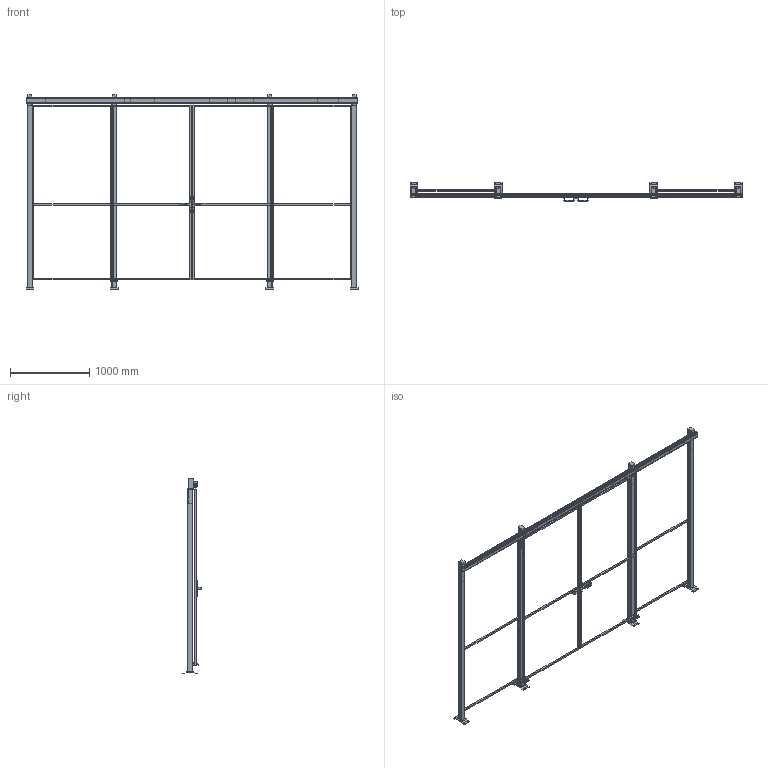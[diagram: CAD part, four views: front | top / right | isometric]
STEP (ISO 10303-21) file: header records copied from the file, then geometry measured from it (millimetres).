
FILE_DESCRIPTION(/* description */ (''),/* implementation_level */ '2;1');
FILE_NAME(/* name */ 'C:\SafeGuarding\ELABORATI\HOR§VED_2025-04-01-09-49-29.stp',/* time_stamp */ '2025-04-01T09:49:31+02:00',/* author */ ('admin'),/* organization */ (''),/* preprocessor_version */ 'ST-DEVELOPER v18.1',/* originating_system */ 'AutoCAD Mechanical',/* authorisation */ '');
FILE_SCHEMA (('AUTOMOTIVE_DESIGN { 1 0 10303 214 3 1 1 }'));
Length unit declared in the file: millimetre
Products named in the file (3): Product; R_VFPA.REPE20.10002200; P_VFMA.V260SDU.2320
Assembly tree (8 placements, depth 2):
  Product
    R_VFPA.REPE20.10002200  x4
    P_VFMA.V260SDU.2320  x4
Bounding box: 4180 x 235.91 x 2454 mm (x, y, z)
Volume: 61341952.6 mm3; surface area: 9296751.7 mm2
Topology: 58 solids, 80 shells, 694 faces, 2286 edges, 2280 vertices
Faces by surface type: plane 638, cylinder 56
Full cylindrical faces by diameter (mm): 11 x16, 12 x4, 14 x4, 15 x8, 40 x8
Entity records: 17809 total; most frequent: CARTESIAN_POINT 3709, ORIENTED_EDGE 2724, DIRECTION 2658, EDGE_CURVE 1460, LINE 1288, VECTOR 1288, VERTEX_POINT 1056, AXIS2_PLACEMENT_3D 685
